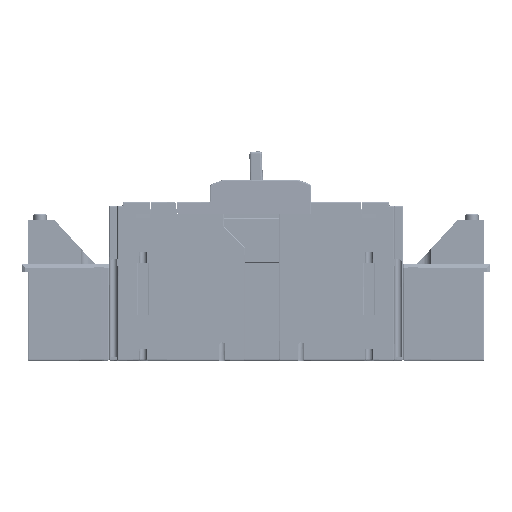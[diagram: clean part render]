
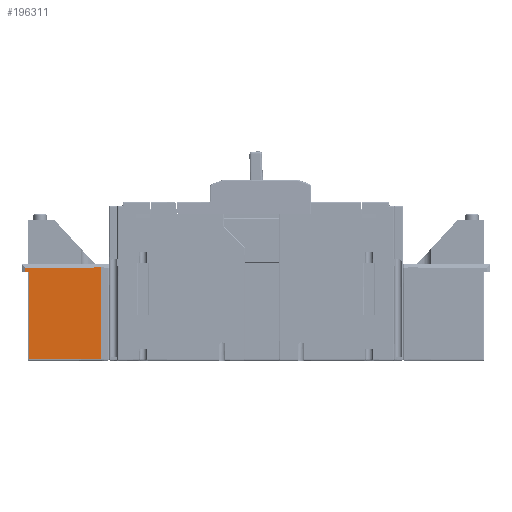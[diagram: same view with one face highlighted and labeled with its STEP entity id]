
A CAD part, left-side view. The second image highlights one B-rep face of the part: STEP entity #196311.
In plain terms, the highlighted planar face has unit normal (-1, 0.004, 0).
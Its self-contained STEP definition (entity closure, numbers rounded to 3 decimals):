
#32414 = LINE ( 'NONE', #32431, #121102 ) ;
#32431 = CARTESIAN_POINT ( 'NONE',  ( -67.306, 107.537, 2.583 ) ) ;
#32436 = DIRECTION ( 'NONE',  ( 0., 0., -1. ) ) ;
#50018 = ORIENTED_EDGE ( 'NONE', *, *, #322928, .T. ) ;
#50025 = ORIENTED_EDGE ( 'NONE', *, *, #63887, .F. ) ;
#50032 = ORIENTED_EDGE ( 'NONE', *, *, #303140, .T. ) ;
#50038 = ORIENTED_EDGE ( 'NONE', *, *, #320005, .T. ) ;
#50044 = ORIENTED_EDGE ( 'NONE', *, *, #320429, .T. ) ;
#50050 = ORIENTED_EDGE ( 'NONE', *, *, #324484, .F. ) ;
#56383 = EDGE_LOOP ( 'NONE', ( #50050, #50044, #50038, #50032, #50025, #50018 ) ) ;
#63887 = EDGE_CURVE ( 'NONE', #153737, #165658, #285524, .T. ) ;
#78214 = VECTOR ( 'NONE', #285533, 1000. ) ;
#114020 = CARTESIAN_POINT ( 'NONE',  ( -67.311, 106.069, -1.217 ) ) ;
#114955 = CARTESIAN_POINT ( 'NONE',  ( -67.423, 74.067, 0.851 ) ) ;
#115362 = CARTESIAN_POINT ( 'NONE',  ( -67.306, 107.537, 0.82 ) ) ;
#115389 = CARTESIAN_POINT ( 'NONE',  ( -67.311, 106.069, -39.817 ) ) ;
#116768 = CARTESIAN_POINT ( 'NONE',  ( -67.306, 107.537, -1.217 ) ) ;
#121102 = VECTOR ( 'NONE', #32436, 1000. ) ;
#121482 = VECTOR ( 'NONE', #338585, 1000. ) ;
#121632 = VECTOR ( 'NONE', #340625, 1000. ) ;
#128611 = FACE_OUTER_BOUND ( 'NONE', #56383, .T. ) ;
#128633 = PLANE ( 'NONE',  #386979 ) ;
#128710 = CARTESIAN_POINT ( 'NONE',  ( -67.423, 74.067, 2.583 ) ) ;
#128714 = DIRECTION ( 'NONE',  ( -1., 0.003, 0. ) ) ;
#128717 = DIRECTION ( 'NONE',  ( -0.003, -1., 0. ) ) ;
#153737 = VERTEX_POINT ( 'NONE', #114020 ) ;
#158862 = VERTEX_POINT ( 'NONE', #114955 ) ;
#159954 = VERTEX_POINT ( 'NONE', #115362 ) ;
#160013 = VERTEX_POINT ( 'NONE', #115389 ) ;
#165658 = VERTEX_POINT ( 'NONE', #116768 ) ;
#166385 = VERTEX_POINT ( 'NONE', #385149 ) ;
#196311 = ADVANCED_FACE ( 'NONE', ( #128611 ), #128633, .T. ) ;
#281927 = VECTOR ( 'NONE', #297284, 1000. ) ;
#283020 = VECTOR ( 'NONE', #349495, 1000. ) ;
#285524 = LINE ( 'NONE', #285530, #78214 ) ;
#285530 = CARTESIAN_POINT ( 'NONE',  ( -67.311, 106.069, -1.217 ) ) ;
#285533 = DIRECTION ( 'NONE',  ( 0.003, 1., 0. ) ) ;
#297270 = LINE ( 'NONE', #297279, #281927 ) ;
#297279 = CARTESIAN_POINT ( 'NONE',  ( -67.311, 106.069, 2.583 ) ) ;
#297284 = DIRECTION ( 'NONE',  ( 0., 0., -1. ) ) ;
#303140 = EDGE_CURVE ( 'NONE', #159954, #165658, #32414, .T. ) ;
#320005 = EDGE_CURVE ( 'NONE', #158862, #159954, #338577, .T. ) ;
#320429 = EDGE_CURVE ( 'NONE', #166385, #158862, #340607, .T. ) ;
#322928 = EDGE_CURVE ( 'NONE', #153737, #160013, #297270, .T. ) ;
#324484 = EDGE_CURVE ( 'NONE', #166385, #160013, #349485, .T. ) ;
#338577 = LINE ( 'NONE', #338581, #121482 ) ;
#338581 = CARTESIAN_POINT ( 'NONE',  ( -67.423, 74.067, 0.851 ) ) ;
#338585 = DIRECTION ( 'NONE',  ( 0.003, 1., -0.001 ) ) ;
#340533 = CARTESIAN_POINT ( 'NONE',  ( -67.423, 74.067, 2.583 ) ) ;
#340607 = LINE ( 'NONE', #340533, #121632 ) ;
#340625 = DIRECTION ( 'NONE',  ( 0., 0., 1. ) ) ;
#349485 = LINE ( 'NONE', #349490, #283020 ) ;
#349490 = CARTESIAN_POINT ( 'NONE',  ( -67.423, 74.067, -39.817 ) ) ;
#349495 = DIRECTION ( 'NONE',  ( 0.003, 1., 0. ) ) ;
#385149 = CARTESIAN_POINT ( 'NONE',  ( -67.423, 74.067, -39.817 ) ) ;
#386979 = AXIS2_PLACEMENT_3D ( 'NONE', #128710, #128714, #128717 ) ;
